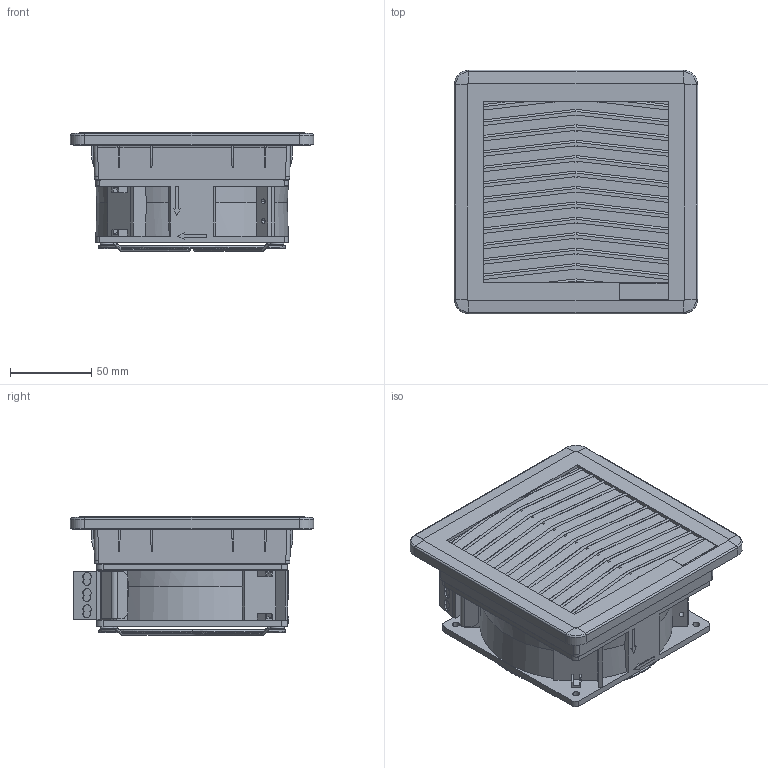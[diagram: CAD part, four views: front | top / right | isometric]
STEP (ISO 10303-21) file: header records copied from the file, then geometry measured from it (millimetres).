
FILE_DESCRIPTION (( 'STEP AP214' ), '1' );
FILE_NAME ('FF12AxxxyF.STEP', '2025-01-17T08:10:15', ( '' ), ( '' ), 'SwSTEP 2.0', 'SolidWorks 2022', '' );
FILE_SCHEMA (( 'AUTOMOTIVE_DESIGN' ));
Length unit declared in the file: millimetre
Products named in the file (10): DT-01852DSI_Default Assieme semplificato; A12R23HWBWnnn_Cavi per morsettiera SEMPLIFICATO; DT-03325DSI_Default semplificata; DT-01853DSI; DT-00200DSI_Coperchio semplificato; 040013_LK_980-01-3_morsettiera semplificata; DT-03468DSI_x montaggio A12R12HWBWQ135 SEMPLIFICATA; FF12AxxxyF; DT-00350DSI_Base 124 semplificata; DT-04082DSI_mostrina semplificata
Assembly tree (9 placements, depth 3):
  FF12AxxxyF
    DT-01852DSI_Default Assieme semplificato
      DT-00350DSI_Base 124 semplificata
      DT-00200DSI_Coperchio semplificato
      DT-04082DSI_mostrina semplificata
    DT-03468DSI_x montaggio A12R12HWBWQ135 SEMPLIFICATA
      A12R23HWBWnnn_Cavi per morsettiera SEMPLIFICATO
      DT-03325DSI_Default semplificata
    DT-01853DSI
    040013_LK_980-01-3_morsettiera semplificata
Bounding box: 150 x 150 x 73.2 mm (x, y, z)
Volume: 597157.4 mm3; surface area: 180370.2 mm2
Topology: 5 solids, 9 shells, 596 faces, 1721 edges, 1134 vertices
Faces by surface type: plane 360, bspline 118, cylinder 84, cone 29, torus 5
Entity records: 33409 total; most frequent: CARTESIAN_POINT 18127, ORIENTED_EDGE 3440, DIRECTION 2464, EDGE_CURVE 1720, VERTEX_POINT 1134, LINE 1082, VECTOR 1082, AXIS2_PLACEMENT_3D 691
